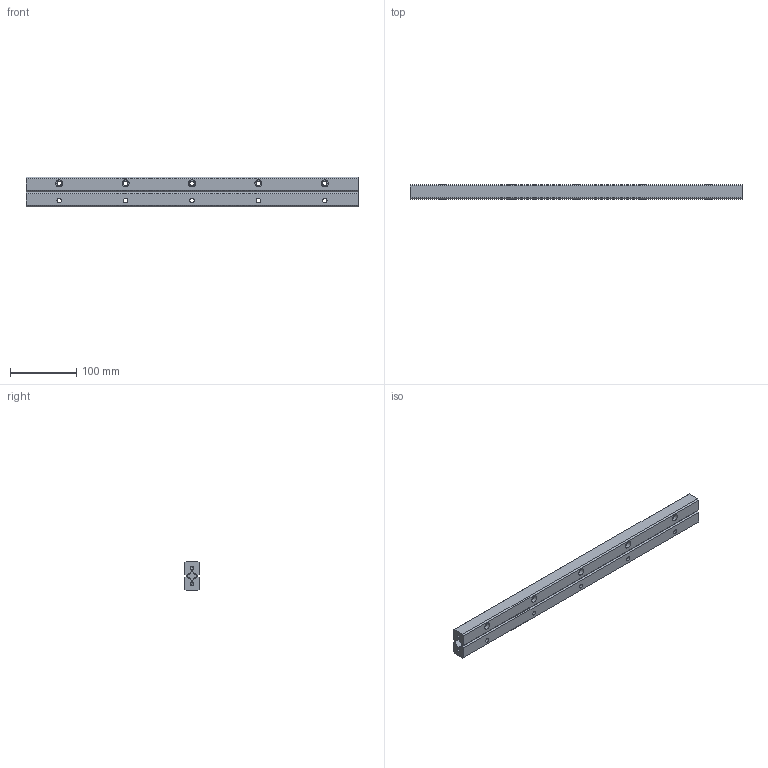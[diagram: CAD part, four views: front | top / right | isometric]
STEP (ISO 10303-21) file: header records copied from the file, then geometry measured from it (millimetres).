
FILE_DESCRIPTION((''),'2;1');
FILE_NAME('D:\製品 (図面)\カタログ用3D\リニアガイド関連\STEP形式\ACS9\ACS9500.stp','2010-07-29T15:47:04',('Tsuchiya'),(''),'Autodesk Inventor 10','Autodesk Inventor 10','');
FILE_SCHEMA(('AUTOMOTIVE_DESIGN { 1 0 10303 214 1 1 1 1 }'));
Length unit declared in the file: millimetre
Products named in the file (4): ACS9500; ACS95001; ACS95002; ACS95003
Assembly tree (3 placements, depth 2):
  ACS9500
    ACS95001
    ACS95002
    ACS95003
Bounding box: 500 x 22 x 44 mm (x, y, z)
Volume: 443430.7 mm3; surface area: 116184.1 mm2
Topology: 3 solids, 3 shells, 92 faces, 214 edges, 142 vertices
Faces by surface type: plane 52, bspline 34, cylinder 4, cone 2
Full cylindrical faces by diameter (mm): 4.917 x2
Entity records: 2875 total; most frequent: CARTESIAN_POINT 853, DIRECTION 362, ORIENTED_EDGE 360, EDGE_CURVE 180, EDGE_LOOP 154, VERTEX_POINT 136, VECTOR 128, LINE 128
